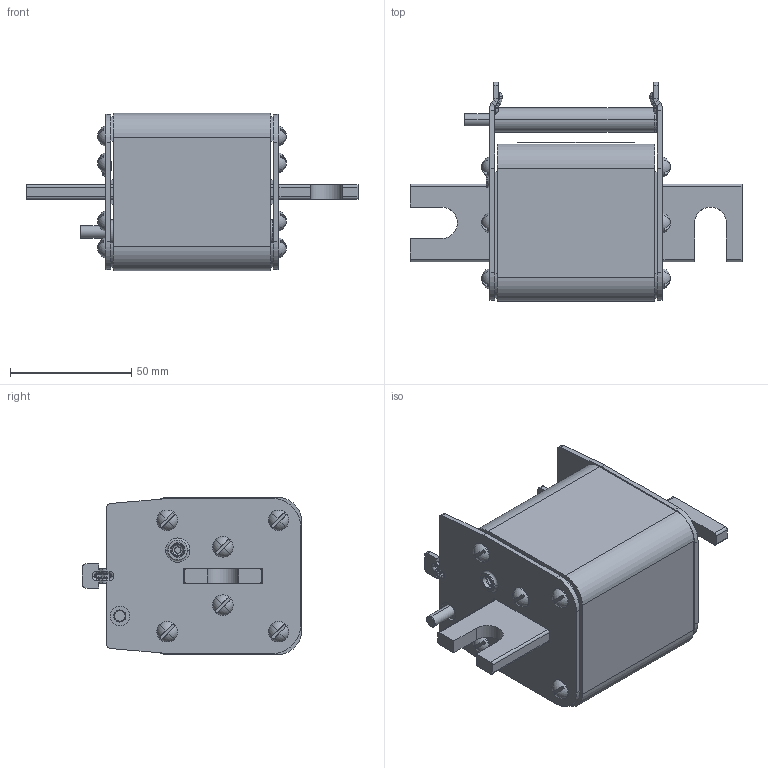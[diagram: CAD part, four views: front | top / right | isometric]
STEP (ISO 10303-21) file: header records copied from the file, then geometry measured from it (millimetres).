
FILE_DESCRIPTION (( 'STEP AP203' ), '1' );
FILE_NAME ('Ïðåäîõðàíèòåëü ÏÍÁ7-690_630-1_3 .STEP', '2014-06-26T10:56:02', ( 'admin' ), ( 'Microsoft' ), 'SwSTEP 2.0', 'SolidWorks 2007', '' );
FILE_SCHEMA (( 'CONFIG_CONTROL_DESIGN' ));
Length unit declared in the file: millimetre
Products named in the file (1): Ïðåäîõðàíèòåëü ÏÍÁ7-690_630-1_3 
Bounding box: 137 x 90.5 x 65 mm (x, y, z)
Surface area: 55644.5 mm2 (no closed solid volume)
Topology: 0 solids, 28 shells, 388 faces, 1054 edges, 682 vertices
Faces by surface type: cylinder 150, plane 136, torus 66, sphere 24, bspline 8, cone 4
Entity records: 12475 total; most frequent: DIRECTION 2380, CARTESIAN_POINT 2285, ORIENTED_EDGE 1861, EDGE_CURVE 1054, AXIS2_PLACEMENT_3D 961, VERTEX_POINT 682, CIRCLE 580, VECTOR 458
